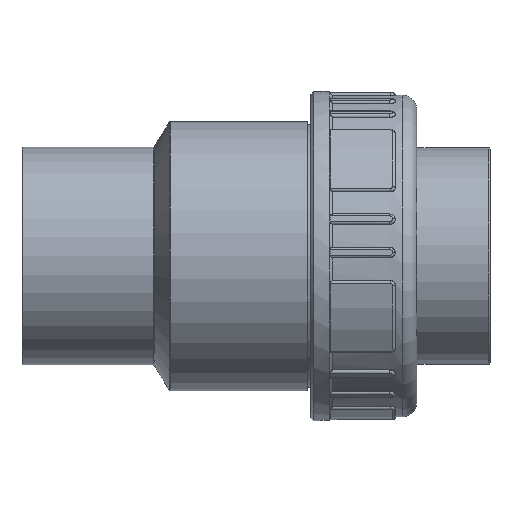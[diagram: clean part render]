
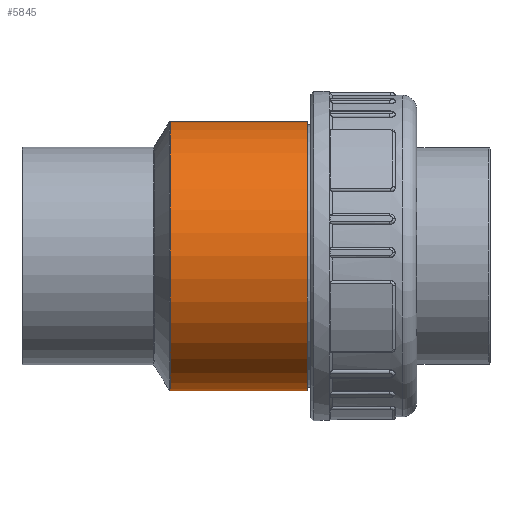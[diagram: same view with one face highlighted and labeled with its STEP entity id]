
A CAD part, left-side view. The second image highlights one B-rep face of the part: STEP entity #5845.
In plain terms, the highlighted cylindrical face has radius 47 mm (diameter 94 mm), a full revolution.
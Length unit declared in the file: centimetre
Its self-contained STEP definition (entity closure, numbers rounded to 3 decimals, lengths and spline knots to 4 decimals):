
#214=CYLINDRICAL_SURFACE('',#6275,4.7);
#302=FACE_BOUND('',#1080,.T.);
#303=FACE_BOUND('',#1081,.T.);
#407=CIRCLE('',#6276,4.7);
#408=CIRCLE('',#6277,4.7);
#723=FACE_OUTER_BOUND('',#1079,.T.);
#1079=EDGE_LOOP('',(#4049));
#1080=EDGE_LOOP('',(#4050));
#1081=EDGE_LOOP('',(#4051));
#2047=B_SPLINE_CURVE_WITH_KNOTS('',3,(#9807,#9808,#9809,#9810,#9811,#9812,
#9813,#9814,#9815,#9816,#9817,#9818,#9819,#9820,#9821,#9822,#9823,#9824),
 .UNSPECIFIED.,.T.,.F.,(4,1,1,1,1,1,1,1,1,1,1,1,1,1,1,4),(-11.3775,
-10.5648,-9.7522,-8.9395,-8.1268,
-7.3141,-6.5014,-5.9596,-5.4179,
-4.8761,-3.7925,-3.2507,-2.438,
-1.6254,-0.8127,0.),.UNSPECIFIED.);
#2364=VERTEX_POINT('',#9786);
#2368=VERTEX_POINT('',#9837);
#2369=VERTEX_POINT('',#9839);
#2990=EDGE_CURVE('',#2364,#2364,#2047,.T.);
#2995=EDGE_CURVE('',#2368,#2368,#407,.T.);
#2996=EDGE_CURVE('',#2369,#2369,#408,.T.);
#4049=ORIENTED_EDGE('',*,*,#2995,.F.);
#4050=ORIENTED_EDGE('',*,*,#2996,.T.);
#4051=ORIENTED_EDGE('',*,*,#2990,.F.);
#5845=ADVANCED_FACE('',(#723,#302,#303),#214,.T.);
#6275=AXIS2_PLACEMENT_3D('',#9836,#7102,#7103);
#6276=AXIS2_PLACEMENT_3D('',#9838,#7104,#7105);
#6277=AXIS2_PLACEMENT_3D('',#9840,#7106,#7107);
#7102=DIRECTION('center_axis',(0.,1.,0.));
#7103=DIRECTION('ref_axis',(-1.,0.,0.));
#7104=DIRECTION('center_axis',(0.,1.,0.));
#7105=DIRECTION('ref_axis',(1.,0.,0.));
#7106=DIRECTION('center_axis',(0.,1.,0.));
#7107=DIRECTION('ref_axis',(1.,0.,0.));
#9786=CARTESIAN_POINT('',(4.3063,0.,1.883));
#9807=CARTESIAN_POINT('Ctrl Pts',(4.3061,0.,
1.8832));
#9808=CARTESIAN_POINT('Ctrl Pts',(4.3061,-0.2861,1.8832));
#9809=CARTESIAN_POINT('Ctrl Pts',(4.3676,-0.8582,1.75));
#9810=CARTESIAN_POINT('Ctrl Pts',(4.5575,-1.5274,1.2167));
#9811=CARTESIAN_POINT('Ctrl Pts',(4.7057,-1.9106,0.4406));
#9812=CARTESIAN_POINT('Ctrl Pts',(4.706,-1.9105,-0.4407));
#9813=CARTESIAN_POINT('Ctrl Pts',(4.5572,-1.5278,-1.2166));
#9814=CARTESIAN_POINT('Ctrl Pts',(4.3891,-0.9318,-1.6905));
#9815=CARTESIAN_POINT('Ctrl Pts',(4.3034,-0.2905,-1.8901));
#9816=CARTESIAN_POINT('Ctrl Pts',(4.3032,0.2904,-1.89));
#9817=CARTESIAN_POINT('Ctrl Pts',(4.4019,1.0236,-1.6626));
#9818=CARTESIAN_POINT('Ctrl Pts',(4.5825,1.5917,-1.1375));
#9819=CARTESIAN_POINT('Ctrl Pts',(4.7056,1.9104,-0.3422));
#9820=CARTESIAN_POINT('Ctrl Pts',(4.7058,1.9107,0.4404));
#9821=CARTESIAN_POINT('Ctrl Pts',(4.5574,1.5274,1.2169));
#9822=CARTESIAN_POINT('Ctrl Pts',(4.3676,0.8582,1.75));
#9823=CARTESIAN_POINT('Ctrl Pts',(4.3061,0.2861,1.8832));
#9824=CARTESIAN_POINT('Ctrl Pts',(4.3061,0.,
1.8832));
#9836=CARTESIAN_POINT('Origin',(0.,0.28,
0.));
#9837=CARTESIAN_POINT('',(-4.7,2.6632,0.));
#9838=CARTESIAN_POINT('Origin',(0.,2.6632,0.));
#9839=CARTESIAN_POINT('',(-4.7,-2.12,0.));
#9840=CARTESIAN_POINT('Origin',(0.,-2.12,0.));
